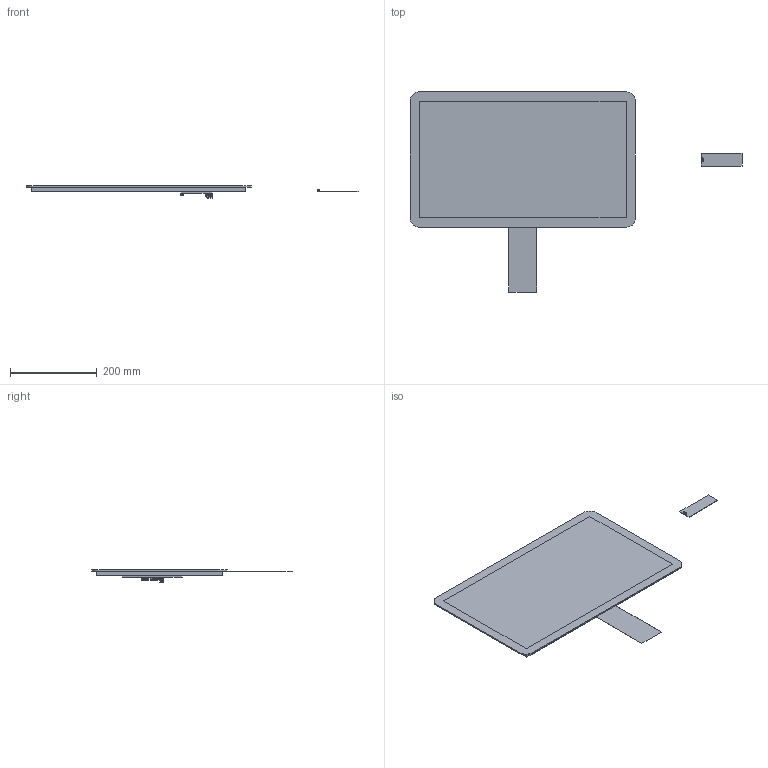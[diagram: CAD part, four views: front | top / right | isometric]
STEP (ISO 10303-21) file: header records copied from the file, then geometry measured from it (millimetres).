
FILE_DESCRIPTION (( 'STEP AP214' ), '1' );
FILE_NAME ('PDC215W-001 REV P1 STEP.STEP', '2025-10-28T16:59:27', ( '' ), ( '' ), 'SwSTEP 2.0', 'SolidWorks 2020', '' );
FILE_SCHEMA (( 'AUTOMOTIVE_DESIGN' ));
Length unit declared in the file: inch
Products named in the file (17): S3B-PH-SM4-TB(LF)(SN)_3; S3B-PH-SM4-TB(LF)(SN); 532610471; S3B-PH-SM4-TB(LF)(SN)_6; S3B-PH-SM4-TB_LF__SN_; S3B-PH-SM4-TB(LF)(SN)_4; PDC215W-001 CONTROLLER ASSEMBLY; S3B-PH-SM4-TB(LF)(SN)_2; PJ-002AH-SMT-TR; PDC215W-001 REV P1 STEP; S3B-PH-SM4-TB(LF)(SN)_5; PDC215W-001 CONTROLLER; PDC215W-001 DISPLAY ASSEMBLY; 472720001; PDC215W-001 DISPLAY; 472720001_2; 10029449-111RLF
Assembly tree (16 placements, depth 4):
  PDC215W-001 REV P1 STEP
    PDC215W-001 DISPLAY ASSEMBLY
      PDC215W-001 DISPLAY
      PJ-002AH-SMT-TR
      S3B-PH-SM4-TB_LF__SN_
        S3B-PH-SM4-TB(LF)(SN)_3
        S3B-PH-SM4-TB(LF)(SN)_6
        S3B-PH-SM4-TB(LF)(SN)_4
        S3B-PH-SM4-TB(LF)(SN)
        S3B-PH-SM4-TB(LF)(SN)_2
        S3B-PH-SM4-TB(LF)(SN)_5
      10029449-111RLF
      472720001
        472720001_2
    PDC215W-001 CONTROLLER ASSEMBLY
      PDC215W-001 CONTROLLER
      532610471
Bounding box: 767.04 x 462.12 x 28.85 mm (x, y, z)
Volume: 2106136.2 mm3; surface area: 999500 mm2
Topology: 16 solids, 20 shells, 3507 faces, 9930 edges, 6417 vertices
Faces by surface type: plane 2734, cylinder 653, bspline 82, cone 38
Entity records: 117245 total; most frequent: CARTESIAN_POINT 23919, ORIENTED_EDGE 19710, DIRECTION 17422, EDGE_CURVE 9914, VECTOR 7844, LINE 7844, VERTEX_POINT 6417, AXIS2_PLACEMENT_3D 4789
